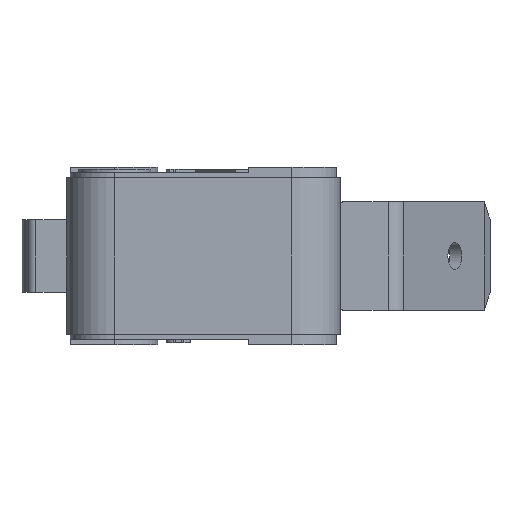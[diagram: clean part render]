
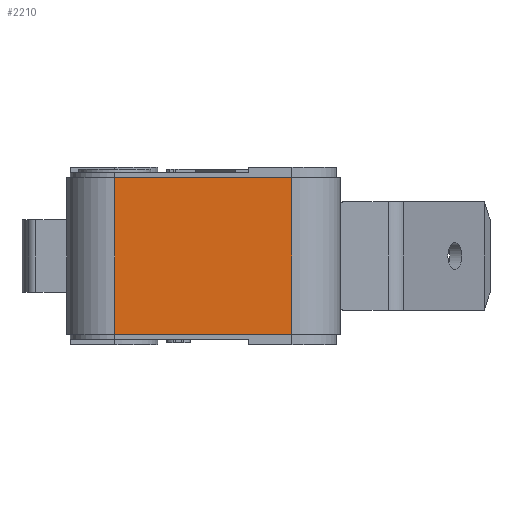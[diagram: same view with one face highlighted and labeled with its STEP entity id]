
A CAD part, left-side view. The second image highlights one B-rep face of the part: STEP entity #2210.
In plain terms, the highlighted planar face has unit normal (-1, 0, 0).
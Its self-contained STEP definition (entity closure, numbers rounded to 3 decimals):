
#2143=CARTESIAN_POINT('',(-13.9,5.15,-4.55));
#2144=VERTEX_POINT('',#2143);
#2145=CARTESIAN_POINT('',(-13.9,5.15,4.55));
#2146=VERTEX_POINT('',#2145);
#2147=CARTESIAN_POINT('',(-13.9,5.15,-4.55));
#2148=DIRECTION('',(0.0,0.0,1.0));
#2149=VECTOR('',#2148,9.1);
#2150=LINE('',#2147,#2149);
#2151=EDGE_CURVE('',#2144,#2146,#2150,.T.);
#2180=CARTESIAN_POINT('',(-13.9,-5.15,-4.55));
#2181=DIRECTION('',(-1.0,0.0,0.0));
#2182=DIRECTION('',(0.0,0.0,1.0));
#2183=AXIS2_PLACEMENT_3D('',#2180,#2181,#2182);
#2184=PLANE('',#2183);
#2185=CARTESIAN_POINT('',(-13.9,-5.15,4.55));
#2186=VERTEX_POINT('',#2185);
#2187=CARTESIAN_POINT('',(-13.9,-5.15,4.55));
#2188=DIRECTION('',(0.0,1.0,0.0));
#2189=VECTOR('',#2188,10.3);
#2190=LINE('',#2187,#2189);
#2191=EDGE_CURVE('',#2186,#2146,#2190,.T.);
#2192=ORIENTED_EDGE('',*,*,#2191,.T.);
#2193=ORIENTED_EDGE('',*,*,#2151,.F.);
#2194=CARTESIAN_POINT('',(-13.9,-5.15,-4.55));
#2195=VERTEX_POINT('',#2194);
#2196=CARTESIAN_POINT('',(-13.9,5.15,-4.55));
#2197=DIRECTION('',(0.0,-1.0,0.0));
#2198=VECTOR('',#2197,10.3);
#2199=LINE('',#2196,#2198);
#2200=EDGE_CURVE('',#2144,#2195,#2199,.T.);
#2201=ORIENTED_EDGE('',*,*,#2200,.T.);
#2202=CARTESIAN_POINT('',(-13.9,-5.15,-4.55));
#2203=DIRECTION('',(0.0,0.0,1.0));
#2204=VECTOR('',#2203,9.1);
#2205=LINE('',#2202,#2204);
#2206=EDGE_CURVE('',#2195,#2186,#2205,.T.);
#2207=ORIENTED_EDGE('',*,*,#2206,.T.);
#2208=EDGE_LOOP('',(#2192,#2193,#2201,#2207));
#2209=FACE_OUTER_BOUND('',#2208,.T.);
#2210=ADVANCED_FACE('',(#2209),#2184,.T.);
